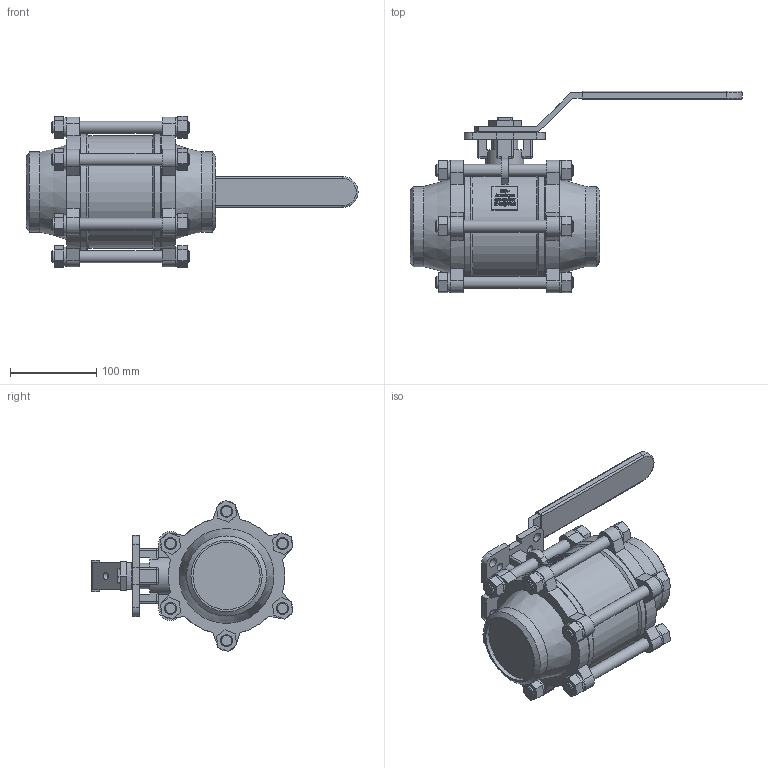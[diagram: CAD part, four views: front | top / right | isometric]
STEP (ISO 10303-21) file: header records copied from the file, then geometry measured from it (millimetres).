
FILE_DESCRIPTION((''),'2;1');
FILE_NAME('K:\Inventor\1 Artikel\11) Muffen-Kugelhähne\11a) manuell\Econosto\470-VABW, 7644ISO\470-VABW, DN80\470-VABW, DN80, 3D\470-VABW, DN80, PN50, HH, 3D.stp','2019-10-23T11:43:27',('claudia'),(''),'Autodesk Inventor 2013','Autodesk Inventor 2013','');
FILE_SCHEMA(('AUTOMOTIVE_DESIGN { 1 0 10303 214 1 1 1 1 }'));
Length unit declared in the file: millimetre
Products named in the file (1): Bauteil15
Bounding box: 385 x 234.03 x 175.16 mm (x, y, z)
Volume: 2858762.7 mm3; surface area: 218634.9 mm2
Topology: 1 solids, 1 shells, 1586 faces, 4203 edges, 2756 vertices
Faces by surface type: plane 970, bspline 481, cylinder 105, cone 20, sphere 8, torus 2
Full cylindrical faces by diameter (mm): 8 x2, 9 x4, 11 x4, 14 x20, 22 x12, 30 x1, 48 x1, 78 x2, 92.8 x2, 130 x1, 135 x4
Entity records: 52673 total; most frequent: CARTESIAN_POINT 16256, ORIENTED_EDGE 8200, DIRECTION 5665, EDGE_CURVE 4100, VECTOR 2803, LINE 2803, VERTEX_POINT 2735, EDGE_LOOP 1849
